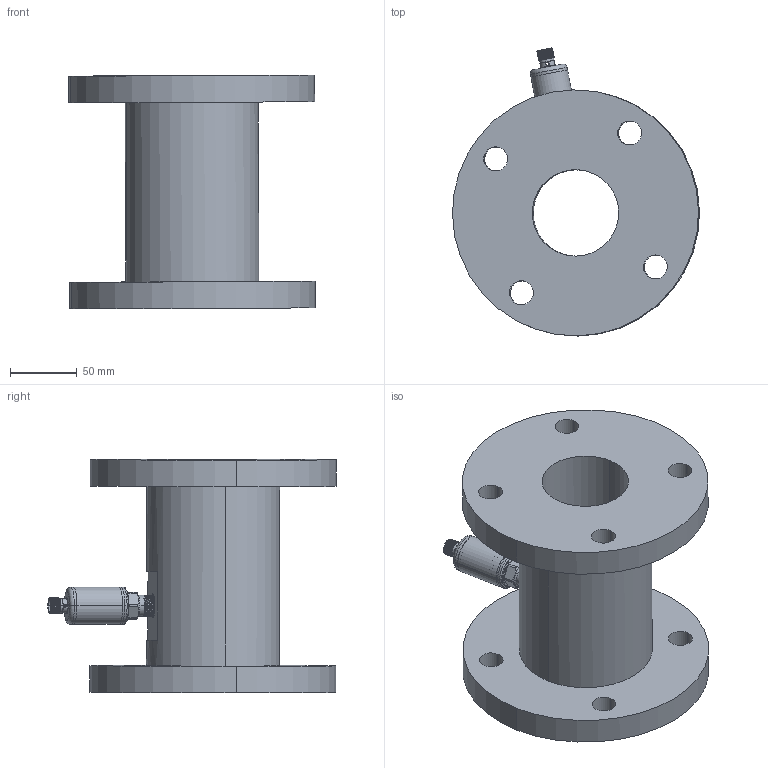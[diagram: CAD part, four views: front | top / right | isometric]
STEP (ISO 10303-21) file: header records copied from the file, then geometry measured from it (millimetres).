
FILE_DESCRIPTION (( 'STEP AP214' ), '1' );
FILE_NAME ('BFW1C65-J.STEP', '2026-05-26T06:35:49', ( '' ), ( '' ), 'SwSTEP 2.0', 'SolidWorks 2023', '' );
FILE_SCHEMA (( 'AUTOMOTIVE_DESIGN' ));
Length unit declared in the file: millimetre
Products named in the file (7): BFW1C65-J; 垫片; 连接管; 壳体; 压力变送器; 探头; DN65法兰-华东
Assembly tree (6 placements, depth 3):
  BFW1C65-J
    压力变送器
      壳体
      垫片
      连接管
      探头
    DN65法兰-华东
Bounding box: 185.74 x 216.72 x 175.82 mm (x, y, z)
Volume: 1518700.2 mm3; surface area: 209193.7 mm2
Topology: 5 solids, 5 shells, 219 faces, 551 edges, 356 vertices
Faces by surface type: cylinder 138, plane 38, cone 31, torus 8, bspline 4
Entity records: 10360 total; most frequent: CARTESIAN_POINT 5076, ORIENTED_EDGE 1102, DIRECTION 1049, EDGE_CURVE 551, AXIS2_PLACEMENT_3D 427, VERTEX_POINT 356, EDGE_LOOP 267, ADVANCED_FACE 219
